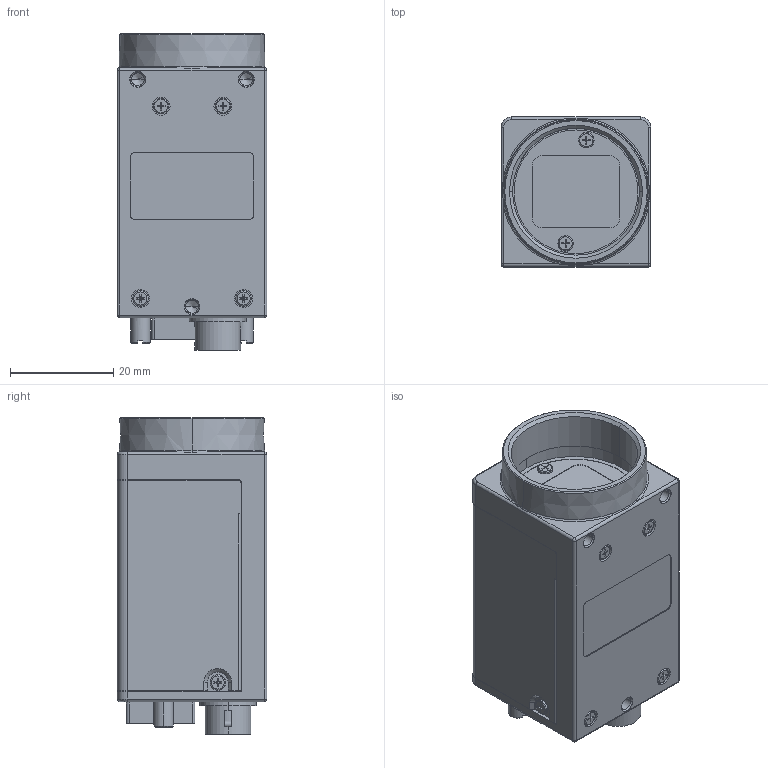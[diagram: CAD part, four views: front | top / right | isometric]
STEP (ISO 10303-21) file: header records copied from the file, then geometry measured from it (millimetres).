
FILE_DESCRIPTION((''),'2;1');
FILE_NAME('GOX-5105C-PGE_MOCK','2021-10-20T17:37:20',('aso'),(''),'CREO PARAMETRIC BY PTC INC, 2019352','CREO PARAMETRIC BY PTC INC, 2019352','');
FILE_SCHEMA(('AUTOMOTIVE_DESIGN { 1 0 10303 214 1 1 1 1 }'));
Length unit declared in the file: millimetre
Products named in the file (1): GOX-5105C-PGE_MOCK
Bounding box: 29 x 29 x 61.3 mm (x, y, z)
Volume: 37950.9 mm3; surface area: 12247.3 mm2
Topology: 1 solids, 9 shells, 591 faces, 1553 edges, 988 vertices
Faces by surface type: plane 319, cylinder 156, cone 68, torus 26, sphere 14, bspline 8
Entity records: 22792 total; most frequent: CARTESIAN_POINT 3751, DIRECTION 3139, ORIENTED_EDGE 3032, EDGE_CURVE 1527, AXIS2_PLACEMENT_3D 1078, VERTEX_POINT 988, VECTOR 983, LINE 983
